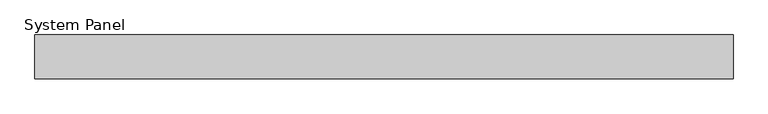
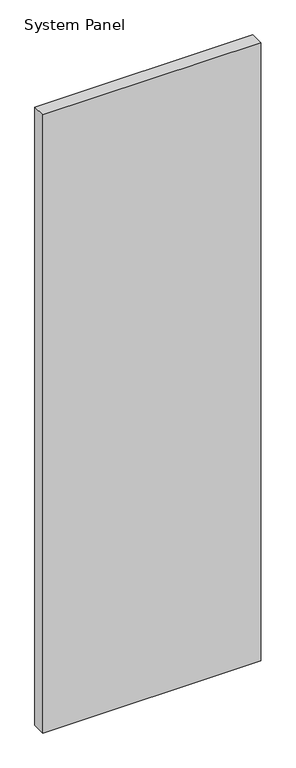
"""IFC4 building model written with IfcOpenShell, lengths in millimetres: plate geometry, System Panel : Equitilt 75mm Vertical - Plain RHEA - MW."""

from ifc_helpers import new_model, si_unit, origin, origin_with_axes, place, context, project, spatial, polyline, outline, extrude, source, transform, mapped, element, save


def system_panel_72fa3ca7(model_context):
    return source(origin(), model_context, "Body", "SweptSolid", [
        extrude(outline(polyline([(600.0, 0.0), (-600.0, 0.0), (-600.0, 75.0), (600.0, 75.0), (600.0, 0.0)])), origin_with_axes(), (0.0, 0.0, 1.0), 3600.0),
    ])


if __name__ == "__main__":
    model = new_model("IFC4")
    model_context = context("Model", 3, world=origin())
    ifc_project = project(units=[si_unit("LENGTHUNIT", "METRE", prefix="MILLI")], contexts=[model_context])
    site = spatial("IfcSite", under=ifc_project)
    building = spatial("IfcBuilding", under=site)
    placement = place(None, origin())
    system_panel_shape = system_panel_72fa3ca7(model_context)
    element("IfcPlate", 1, ObjectType="System Panel : Equitilt 75mm Vertical - Plain RHEA - MW", at=placement, inside=building, context=model_context, shape_type="MappedRepresentation", body=[
        mapped(system_panel_shape, transform((0.0, 0.0, 0.0), x_axis=(1.0, 0.0, 0.0), y_axis=(0.0, 1.0, 0.0), z_axis=(0.0, 0.0, 1.0))),
    ])
    save(model, "model.ifc")
